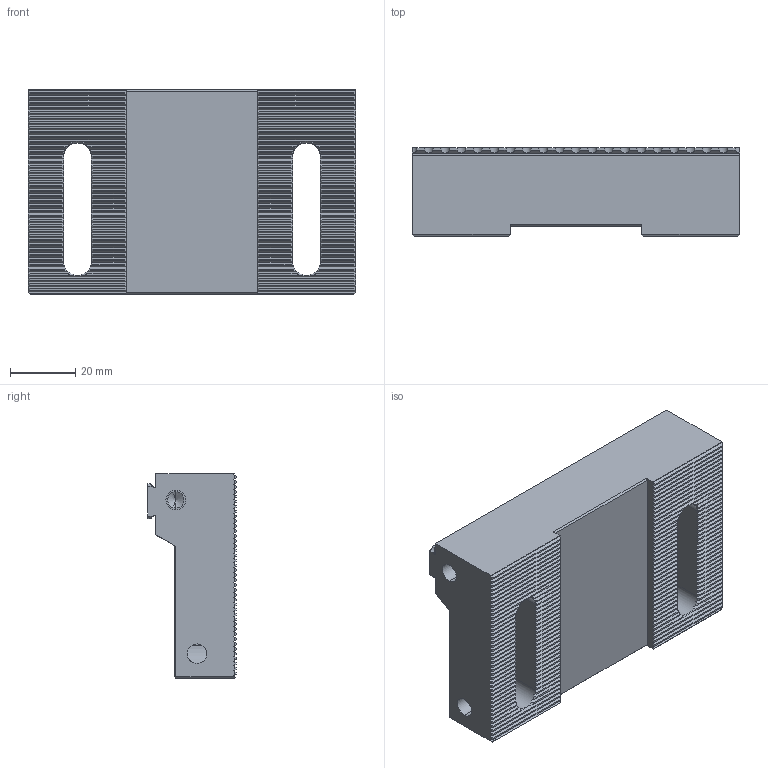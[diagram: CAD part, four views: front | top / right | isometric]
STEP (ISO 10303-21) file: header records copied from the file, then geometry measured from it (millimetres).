
FILE_DESCRIPTION (( 'STEP AP203' ), '1' );
FILE_NAME ('05-0159.STEP', '2021-09-14T22:59:20', ( '' ), ( '' ), 'SwSTEP 2.0', 'SolidWorks 2020', '' );
FILE_SCHEMA (( 'CONFIG_CONTROL_DESIGN' ));
Length unit declared in the file: millimetre
Products named in the file (1): 05-0159
Bounding box: 100 x 27.08 x 62.5 mm (x, y, z)
Volume: 104777.4 mm3; surface area: 25864.7 mm2
Topology: 1 solids, 1 shells, 873 faces, 2589 edges, 1714 vertices
Faces by surface type: plane 753, cylinder 88, cone 32
Entity records: 28933 total; most frequent: CARTESIAN_POINT 5784, ORIENTED_EDGE 5170, DIRECTION 4329, EDGE_CURVE 2585, VECTOR 2251, LINE 2251, VERTEX_POINT 1714, AXIS2_PLACEMENT_3D 1039
